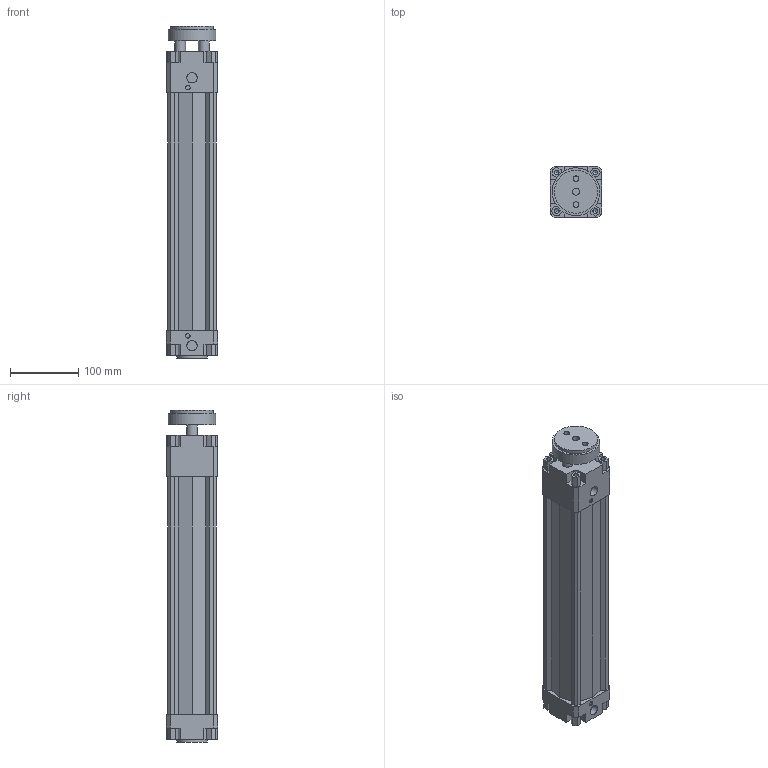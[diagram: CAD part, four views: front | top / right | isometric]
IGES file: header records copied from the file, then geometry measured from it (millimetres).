
Global section: file name: 134#_063_0300_01; native system: Autodesk Inventor 2014; preprocessor: unknown; author: A. Manieri; date: 20161006.165132; units: millimetre
Bounding box: 75 x 75 x 487 mm (x, y, z)
Volume: 1304950.2 mm3; surface area: 303545.8 mm2
Topology: 2 solids, 2 shells, 180 faces, 491 edges, 335 vertices
Faces by surface type: bspline 180
